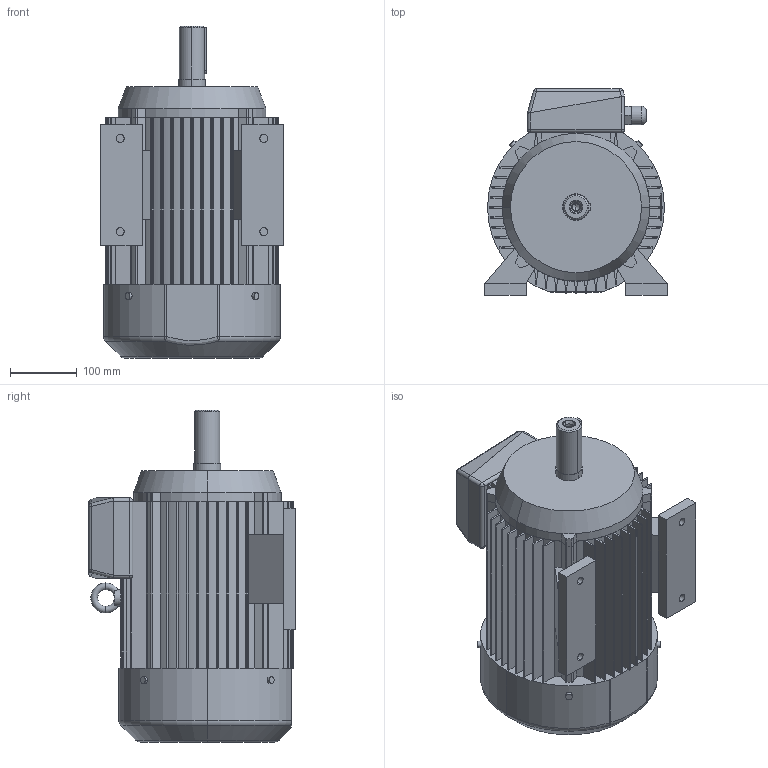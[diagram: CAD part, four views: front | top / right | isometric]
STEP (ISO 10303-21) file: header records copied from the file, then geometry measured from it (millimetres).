
FILE_DESCRIPTION (( 'STEP AP203' ), '1' );
FILE_NAME ('2SIE132S2B,4.STEP', '2012-10-26T12:43:45', ( 'INDUKTA' ), ( 'CANTONI MOTOR' ), 'SwSTEP 2.0', 'SolidWorks 2003064', '' );
FILE_SCHEMA (( 'CONFIG_CONTROL_DESIGN' ));
Length unit declared in the file: millimetre
Products named in the file (1): 2SIE132S2B,4
Bounding box: 274 x 310 x 499 mm (x, y, z)
Volume: 20022637.9 mm3; surface area: 1071065.6 mm2
Topology: 14 solids, 14 shells, 405 faces, 1068 edges, 675 vertices
Faces by surface type: plane 185, cylinder 182, cone 14, torus 13, sphere 10, bspline 1
Entity records: 13282 total; most frequent: CARTESIAN_POINT 3003, DIRECTION 2226, ORIENTED_EDGE 2112, EDGE_CURVE 1056, AXIS2_PLACEMENT_3D 802, VERTEX_POINT 675, LINE 622, VECTOR 622
